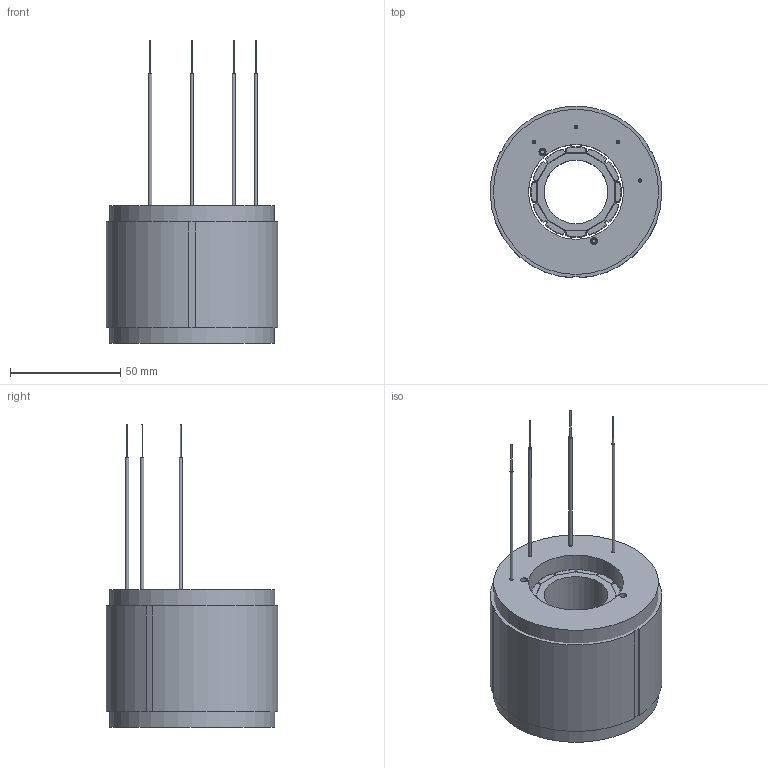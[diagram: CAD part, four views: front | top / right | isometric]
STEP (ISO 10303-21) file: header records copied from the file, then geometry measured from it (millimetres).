
FILE_DESCRIPTION(/* description */ ('Torque_QTR_78_60_Y_Kit_CAD_190315.stp'),/* implementation_level */ '2;1');
FILE_NAME(/* name */ 'Torque_QTR_78_60_Y_Kit_CAD_190315',/* time_stamp */ '2019-03-15T14:35:05+01:00',/* author */ ('Tecnotion'),/* organization */ ('Tecnotion'),/* preprocessor_version */ 'ST-DEVELOPER v16.7',/* originating_system */ 'DEX',/* authorisation */ $);
FILE_SCHEMA (('AUTOMOTIVE_DESIGN {1 0 10303 214 3 1 1}'));
Length unit declared in the file: millimetre
Products named in the file (2): 1084013_190314
Assembly tree (1 placements, depth 2):
  1084013_190314
    1084013_190314
Bounding box: 77.99 x 77.97 x 137.3 mm (x, y, z)
Surface area: 56972.6 mm2 (no closed solid volume)
Topology: 0 solids, 22 shells, 349 faces, 1163 edges, 718 vertices
Faces by surface type: plane 134, cylinder 114, sphere 48, bspline 27, torus 24, cone 2
Full cylindrical faces by diameter (mm): 0.6 x4, 1.5 x6, 3.2 x2, 29 x1, 43.1 x1, 75 x1
Entity records: 14017 total; most frequent: CARTESIAN_POINT 4832, DIRECTION 1788, ORIENTED_EDGE 1554, EDGE_CURVE 1096, VERTEX_POINT 718, AXIS2_PLACEMENT_3D 708, EDGE_LOOP 413, FACE_BOUND 413
